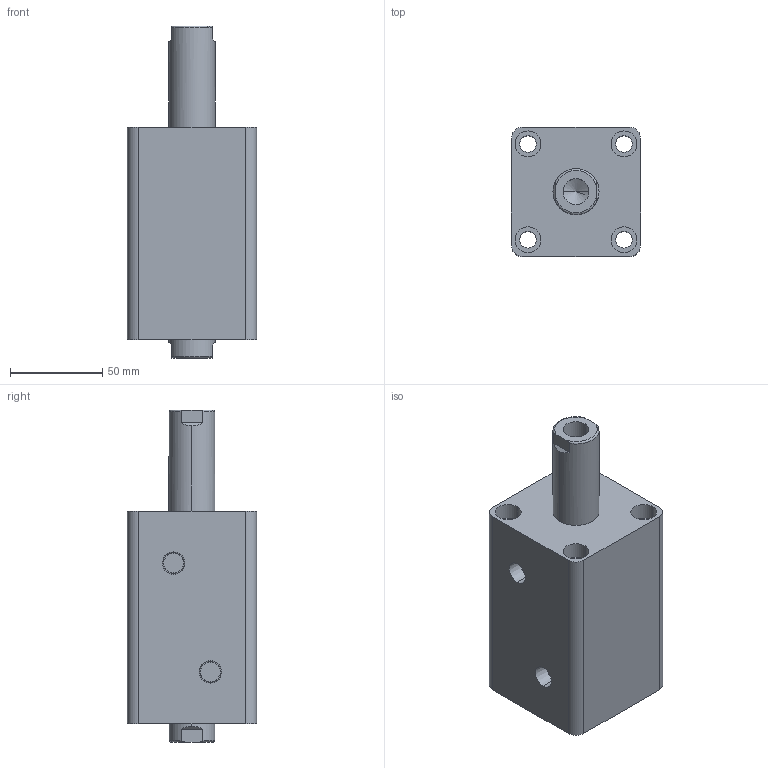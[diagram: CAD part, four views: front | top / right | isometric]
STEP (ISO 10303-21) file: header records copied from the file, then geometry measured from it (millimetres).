
FILE_DESCRIPTION (( 'STEP AP203' ), '1' );
FILE_NAME ('HTB-SW40-45N.STEP', '2019-10-07T09:08:09', ( '微软用户' ), ( '微软中国' ), 'SwSTEP 2.0', 'SolidWorks 2012', '' );
FILE_SCHEMA (( 'CONFIG_CONTROL_DESIGN' ));
Length unit declared in the file: millimetre
Products named in the file (3): HTB-SW40-45N; HTB-SW40-45N活塞杆; HTB-SW40-45掛极
Assembly tree (2 placements, depth 2):
  HTB-SW40-45N
    HTB-SW40-45掛极
    HTB-SW40-45N活塞杆
Bounding box: 70 x 70 x 180 mm (x, y, z)
Volume: 513242.3 mm3; surface area: 86439.5 mm2
Topology: 2 solids, 2 shells, 100 faces, 228 edges, 146 vertices
Faces by surface type: cylinder 48, plane 32, torus 12, cone 8
Entity records: 3237 total; most frequent: CARTESIAN_POINT 595, DIRECTION 542, ORIENTED_EDGE 448, AXIS2_PLACEMENT_3D 229, EDGE_CURVE 224, VERTEX_POINT 146, EDGE_LOOP 128, CIRCLE 124
